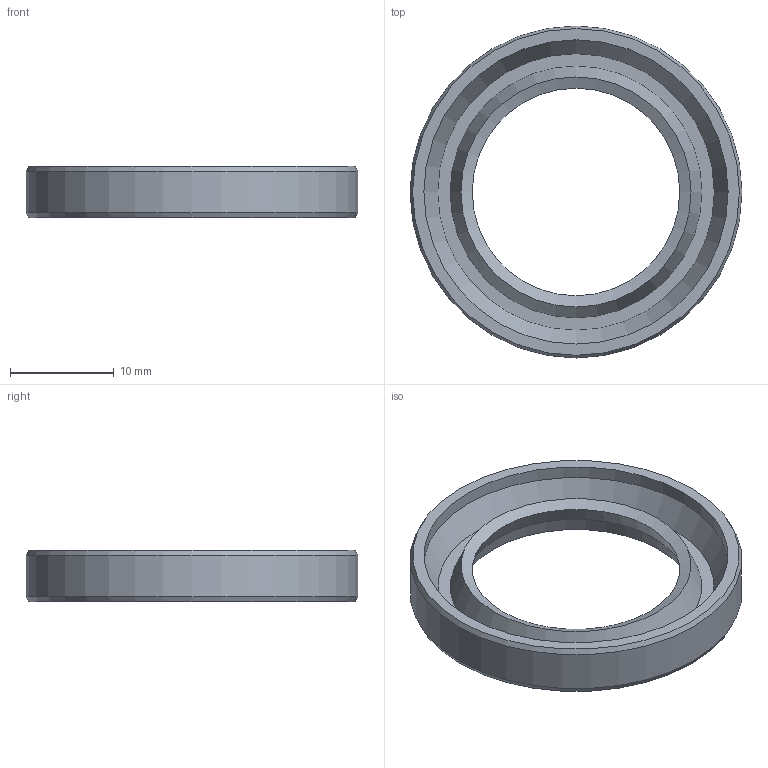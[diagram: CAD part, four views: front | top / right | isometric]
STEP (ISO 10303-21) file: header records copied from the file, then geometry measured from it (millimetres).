
FILE_DESCRIPTION(/* description */ ('오일 실 - 스프링 장착, 비스프링, 고무 덮개 G'),/* implementation_level */ '2;1');
FILE_NAME(/* name */ '',/* time_stamp */ '2026-07-30T15:24:58+09:00',/* author */ ('jhkim'),/* organization */ (''),/* preprocessor_version */ 'ST-DEVELOPER v20.1',/* originating_system */ 'Autodesk Inventor 2027',/* authorisation */ '');
FILE_SCHEMA (('AUTOMOTIVE_DESIGN { 1 0 10303 214 3 1 1 }'));
Length unit declared in the file: millimetre
Products named in the file (1): 오일 실 20 32 5
Bounding box: 32 x 32 x 5 mm (x, y, z)
Volume: 1333.8 mm3; surface area: 1982.3 mm2
Topology: 1 solids, 1 shells, 14 faces, 27 edges, 16 vertices
Faces by surface type: cone 8, plane 3, cylinder 2, torus 1
Full cylindrical faces by diameter (mm): 29.333 x1, 32 x1
Entity records: 407 total; most frequent: DIRECTION 74, CARTESIAN_POINT 58, ORIENTED_EDGE 54, AXIS2_PLACEMENT_3D 32, EDGE_CURVE 27, EDGE_LOOP 17, CIRCLE 17, VERTEX_POINT 16
